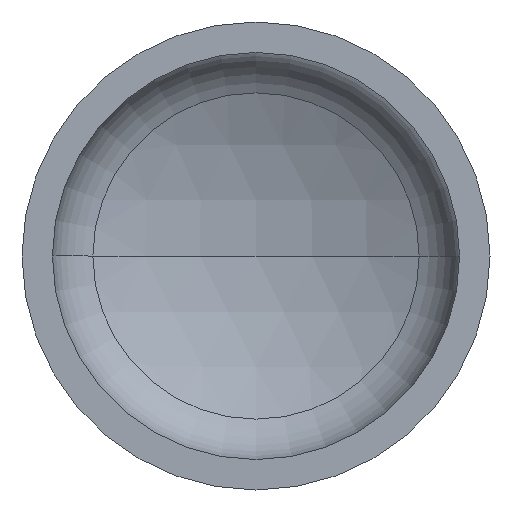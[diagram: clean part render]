
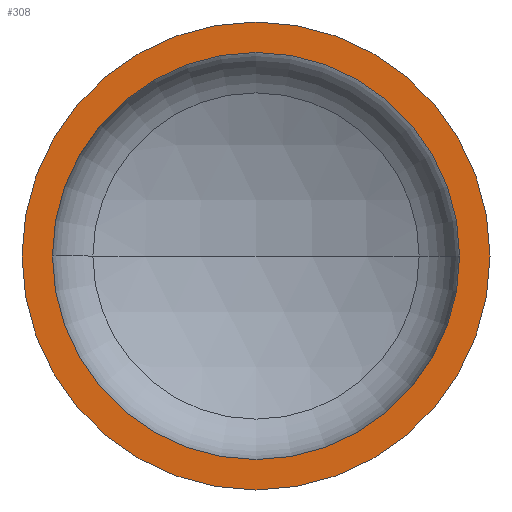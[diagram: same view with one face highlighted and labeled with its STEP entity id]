
A CAD part, front view. The second image highlights one B-rep face of the part: STEP entity #308.
In plain terms, the highlighted planar face has unit normal (0, -1, 0).
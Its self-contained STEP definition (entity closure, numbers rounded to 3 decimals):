
#4 = ORIENTED_EDGE ( 'NONE', *, *, #9, .T. ) ;
#9 = EDGE_CURVE ( 'NONE', #71, #95, #226, .T. ) ;
#10 = CARTESIAN_POINT ( 'NONE',  ( 0., 0., 0. ) ) ;
#41 = EDGE_CURVE ( 'NONE', #75, #354, #297, .T. ) ;
#42 = DIRECTION ( 'NONE',  ( 1., 0., 0. ) ) ;
#52 = DIRECTION ( 'NONE',  ( 1., 0., 0. ) ) ;
#54 = AXIS2_PLACEMENT_3D ( 'NONE', #355, #204, #177 ) ;
#67 = FACE_OUTER_BOUND ( 'NONE', #243, .T. ) ;
#71 = VERTEX_POINT ( 'NONE', #335 ) ;
#75 = VERTEX_POINT ( 'NONE', #317 ) ;
#83 = PLANE ( 'NONE',  #200 ) ;
#86 = CIRCLE ( 'NONE', #179, 696. ) ;
#89 = CARTESIAN_POINT ( 'NONE',  ( -800., 0., 0. ) ) ;
#95 = VERTEX_POINT ( 'NONE', #271 ) ;
#96 = DIRECTION ( 'NONE',  ( 1., 0., 0. ) ) ;
#101 = DIRECTION ( 'NONE',  ( 0., 1., 0. ) ) ;
#111 = DIRECTION ( 'NONE',  ( -1., 0., 0. ) ) ;
#131 = ORIENTED_EDGE ( 'NONE', *, *, #349, .T. ) ;
#144 = DIRECTION ( 'NONE',  ( 0., -1., 0. ) ) ;
#146 = AXIS2_PLACEMENT_3D ( 'NONE', #294, #290, #42 ) ;
#177 = DIRECTION ( 'NONE',  ( 1., 0., 0. ) ) ;
#179 = AXIS2_PLACEMENT_3D ( 'NONE', #394, #303, #96 ) ;
#200 = AXIS2_PLACEMENT_3D ( 'NONE', #89, #101, #111 ) ;
#204 = DIRECTION ( 'NONE',  ( 0., -1., 0. ) ) ;
#224 = AXIS2_PLACEMENT_3D ( 'NONE', #10, #144, #52 ) ;
#226 = CIRCLE ( 'NONE', #54, 800. ) ;
#227 = CIRCLE ( 'NONE', #224, 800. ) ;
#243 = EDGE_LOOP ( 'NONE', ( #4, #131 ) ) ;
#271 = CARTESIAN_POINT ( 'NONE',  ( -800., 0., 0. ) ) ;
#276 = ORIENTED_EDGE ( 'NONE', *, *, #327, .F. ) ;
#290 = DIRECTION ( 'NONE',  ( 0., -1., 0. ) ) ;
#294 = CARTESIAN_POINT ( 'NONE',  ( 0., 0., 0. ) ) ;
#297 = CIRCLE ( 'NONE', #146, 696. ) ;
#303 = DIRECTION ( 'NONE',  ( 0., -1., 0. ) ) ;
#308 = ADVANCED_FACE ( 'NONE', ( #402, #67 ), #83, .F. ) ;
#317 = CARTESIAN_POINT ( 'NONE',  ( -696., 0., 0. ) ) ;
#320 = ORIENTED_EDGE ( 'NONE', *, *, #41, .F. ) ;
#327 = EDGE_CURVE ( 'NONE', #354, #75, #86, .T. ) ;
#335 = CARTESIAN_POINT ( 'NONE',  ( 800., 0., 0. ) ) ;
#338 = CARTESIAN_POINT ( 'NONE',  ( 696., 0., 0. ) ) ;
#349 = EDGE_CURVE ( 'NONE', #95, #71, #227, .T. ) ;
#354 = VERTEX_POINT ( 'NONE', #338 ) ;
#355 = CARTESIAN_POINT ( 'NONE',  ( 0., 0., 0. ) ) ;
#357 = EDGE_LOOP ( 'NONE', ( #276, #320 ) ) ;
#394 = CARTESIAN_POINT ( 'NONE',  ( 0., 0., 0. ) ) ;
#402 = FACE_BOUND ( 'NONE', #357, .T. ) ;
